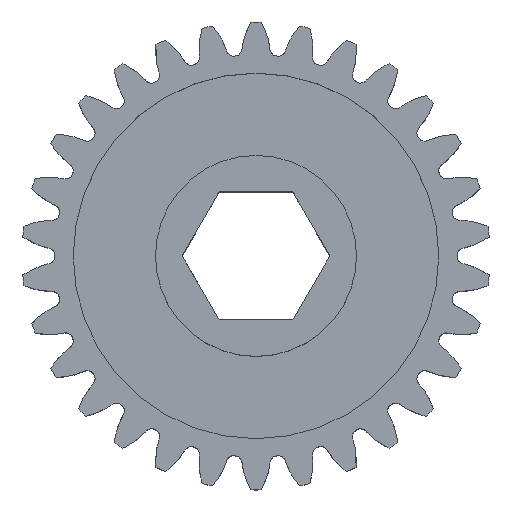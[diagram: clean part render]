
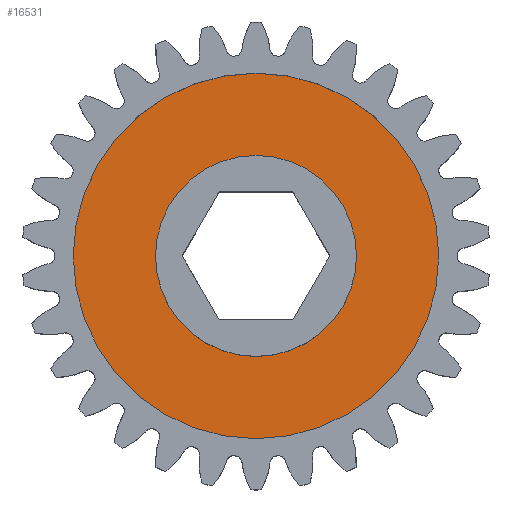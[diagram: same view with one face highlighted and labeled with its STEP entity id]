
A CAD part, top view. The second image highlights one B-rep face of the part: STEP entity #16531.
In plain terms, the highlighted planar face has unit normal (0, 0, 1).
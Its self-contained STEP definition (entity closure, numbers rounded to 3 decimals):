
#772 = CARTESIAN_POINT ( 'NONE',  ( 5.5, 0., 3. ) ) ;
#862 = EDGE_CURVE ( 'NONE', #18441, #17832, #1887, .T. ) ;
#1320 = VERTEX_POINT ( 'NONE', #10423 ) ;
#1887 = CIRCLE ( 'NONE', #17359, 5.5 ) ;
#2074 = CARTESIAN_POINT ( 'NONE',  ( 0., 0., 3. ) ) ;
#2628 = FACE_BOUND ( 'NONE', #19953, .T. ) ;
#2774 = EDGE_CURVE ( 'NONE', #4175, #1320, #6450, .T. ) ;
#3518 = CARTESIAN_POINT ( 'NONE',  ( 0., 0., 3. ) ) ;
#3709 = DIRECTION ( 'NONE',  ( 0., 0., 1. ) ) ;
#4175 = VERTEX_POINT ( 'NONE', #8805 ) ;
#6450 = CIRCLE ( 'NONE', #13404, 10. ) ;
#6493 = DIRECTION ( 'NONE',  ( -1., 0., 0. ) ) ;
#7290 = EDGE_CURVE ( 'NONE', #1320, #4175, #12577, .T. ) ;
#7935 = CARTESIAN_POINT ( 'NONE',  ( 0., 0., 3. ) ) ;
#8658 = ORIENTED_EDGE ( 'NONE', *, *, #17170, .F. ) ;
#8805 = CARTESIAN_POINT ( 'NONE',  ( -10., 0., 3. ) ) ;
#9314 = CIRCLE ( 'NONE', #16747, 5.5 ) ;
#9582 = DIRECTION ( 'NONE',  ( -1., 0., 0. ) ) ;
#9657 = CARTESIAN_POINT ( 'NONE',  ( -5.5, 0., 3. ) ) ;
#10151 = ORIENTED_EDGE ( 'NONE', *, *, #2774, .T. ) ;
#10167 = DIRECTION ( 'NONE',  ( -1., 0., 0. ) ) ;
#10423 = CARTESIAN_POINT ( 'NONE',  ( 10., 0., 3. ) ) ;
#10706 = DIRECTION ( 'NONE',  ( 0., 0., 1. ) ) ;
#10781 = EDGE_LOOP ( 'NONE', ( #12981, #10151 ) ) ;
#12577 = CIRCLE ( 'NONE', #16620, 10. ) ;
#12981 = ORIENTED_EDGE ( 'NONE', *, *, #7290, .T. ) ;
#13404 = AXIS2_PLACEMENT_3D ( 'NONE', #3518, #14883, #10167 ) ;
#14707 = PLANE ( 'NONE',  #16870 ) ;
#14883 = DIRECTION ( 'NONE',  ( 0., 0., 1. ) ) ;
#16353 = CARTESIAN_POINT ( 'NONE',  ( -0.481, 12.392, 3. ) ) ;
#16531 = ADVANCED_FACE ( 'NONE', ( #19080, #2628 ), #14707, .F. ) ;
#16620 = AXIS2_PLACEMENT_3D ( 'NONE', #7935, #19394, #9582 ) ;
#16747 = AXIS2_PLACEMENT_3D ( 'NONE', #18864, #10706, #20502 ) ;
#16870 = AXIS2_PLACEMENT_3D ( 'NONE', #16353, #18106, #6493 ) ;
#17170 = EDGE_CURVE ( 'NONE', #17832, #18441, #9314, .T. ) ;
#17359 = AXIS2_PLACEMENT_3D ( 'NONE', #2074, #3709, #18558 ) ;
#17832 = VERTEX_POINT ( 'NONE', #772 ) ;
#18106 = DIRECTION ( 'NONE',  ( 0., 0., -1. ) ) ;
#18441 = VERTEX_POINT ( 'NONE', #9657 ) ;
#18558 = DIRECTION ( 'NONE',  ( -1., 0., 0. ) ) ;
#18864 = CARTESIAN_POINT ( 'NONE',  ( 0., 0., 3. ) ) ;
#19080 = FACE_OUTER_BOUND ( 'NONE', #10781, .T. ) ;
#19312 = ORIENTED_EDGE ( 'NONE', *, *, #862, .F. ) ;
#19394 = DIRECTION ( 'NONE',  ( 0., 0., 1. ) ) ;
#19953 = EDGE_LOOP ( 'NONE', ( #8658, #19312 ) ) ;
#20502 = DIRECTION ( 'NONE',  ( -1., 0., 0. ) ) ;
